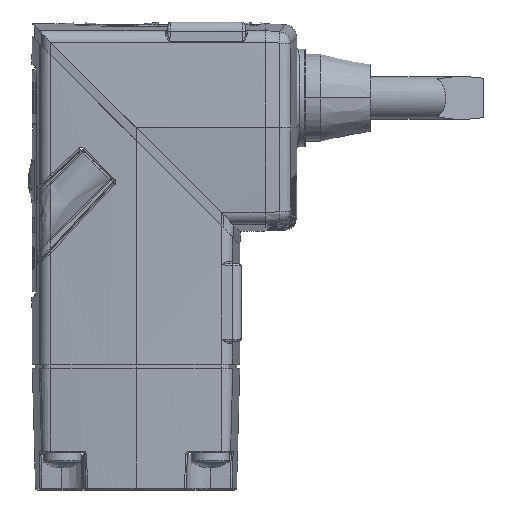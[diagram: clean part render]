
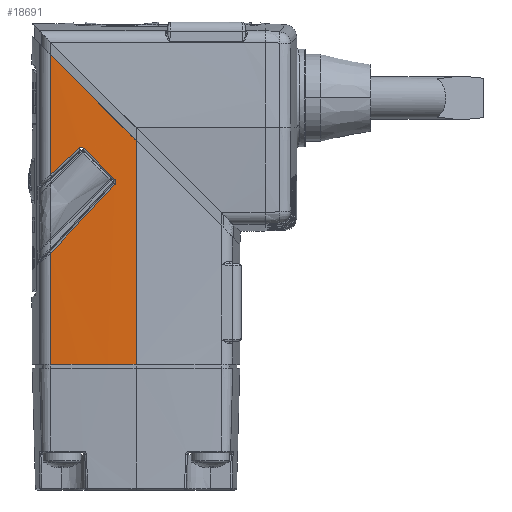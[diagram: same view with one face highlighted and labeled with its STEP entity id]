
A CAD part, left-side view. The second image highlights one B-rep face of the part: STEP entity #18691.
In plain terms, the highlighted cylindrical face has radius 195.5 mm (diameter 391 mm), a partial arc.
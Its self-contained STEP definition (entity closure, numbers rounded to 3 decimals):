
#143 = CARTESIAN_POINT ( 'NONE',  ( -20.932, 5.474, 22.691 ) ) ;
#341 = AXIS2_PLACEMENT_3D ( 'NONE', #3939, #8947, #29010 ) ;
#735 = VECTOR ( 'NONE', #30590, 1000. ) ;
#889 = CARTESIAN_POINT ( 'NONE',  ( -21.112, 2.18, 19.4 ) ) ;
#1514 = ORIENTED_EDGE ( 'NONE', *, *, #51876, .T. ) ;
#2275 =( BOUNDED_CURVE ( )  B_SPLINE_CURVE ( 3, ( #18882, #13611, #33940, #4045 ),
 .UNSPECIFIED., .F., .F. ) 
 B_SPLINE_CURVE_WITH_KNOTS ( ( 4, 4 ),
 ( 1.606, 1.652 ),
 .UNSPECIFIED. ) 
 CURVE ( )  GEOMETRIC_REPRESENTATION_ITEM ( )  RATIONAL_B_SPLINE_CURVE ( ( 1., 1., 1., 1. ) ) 
 REPRESENTATION_ITEM ( '' )  );
#3939 = CARTESIAN_POINT ( 'NONE',  ( 174.181, -6.823, 40. ) ) ;
#4045 = CARTESIAN_POINT ( 'NONE',  ( -20.679, 8.989, 32.583 ) ) ;
#7305 = LINE ( 'NONE', #59902, #19046 ) ;
#7547 = VERTEX_POINT ( 'NONE', #46237 ) ;
#8947 = DIRECTION ( 'NONE',  ( 0., 0., -1. ) ) ;
#10772 = CARTESIAN_POINT ( 'NONE',  ( -21.108, 2.253, 19.473 ) ) ;
#11211 = EDGE_CURVE ( 'NONE', #50753, #50844, #53818, .T. ) ;
#11760 = CARTESIAN_POINT ( 'NONE',  ( -20.679, 8.989, 32.583 ) ) ;
#12271 = CARTESIAN_POINT ( 'NONE',  ( -20.679, 8.989, 11.694 ) ) ;
#13182 = CARTESIAN_POINT ( 'NONE',  ( -20.679, 8.989, 0. ) ) ;
#13611 = CARTESIAN_POINT ( 'NONE',  ( -21.095, 3., 26.594 ) ) ;
#16227 = CARTESIAN_POINT ( 'NONE',  ( -20.679, 8.989, 19.941 ) ) ;
#17328 = ORIENTED_EDGE ( 'NONE', *, *, #58448, .T. ) ;
#17591 = ORIENTED_EDGE ( 'NONE', *, *, #34177, .T. ) ;
#18691 = ADVANCED_FACE ( 'NONE', ( #24954 ), #18722, .T. ) ;
#18722 = CYLINDRICAL_SURFACE ( 'NONE', #341, 195.5 ) ;
#18882 = CARTESIAN_POINT ( 'NONE',  ( -21.2, 0., 23.593 ) ) ;
#19046 = VECTOR ( 'NONE', #25427, 1000. ) ;
#19430 = ORIENTED_EDGE ( 'NONE', *, *, #11211, .F. ) ;
#19525 = CARTESIAN_POINT ( 'NONE',  ( -20.896, 6.03, 22.701 ) ) ;
#20598 = B_SPLINE_CURVE_WITH_KNOTS ( 'NONE', 3,
 ( #35818, #889, #50896, #20961, #55904, #25950 ),
 .UNSPECIFIED., .F., .F.,
 ( 4, 2, 4 ),
 ( 0., 0., 0.001 ),
 .UNSPECIFIED. ) ;
#20705 = DIRECTION ( 'NONE',  ( 0., 0., -1. ) ) ;
#20961 = CARTESIAN_POINT ( 'NONE',  ( -21.114, 2.134, 19.095 ) ) ;
#21031 = CARTESIAN_POINT ( 'NONE',  ( -21., 4.401, 21.619 ) ) ;
#22084 = VECTOR ( 'NONE', #31195, 1000. ) ;
#24110 = CARTESIAN_POINT ( 'NONE',  ( -20.825, 7.071, 21.73 ) ) ;
#24954 = FACE_OUTER_BOUND ( 'NONE', #54566, .T. ) ;
#25003 = CARTESIAN_POINT ( 'NONE',  ( -20.896, 6.03, 22.701 ) ) ;
#25427 = DIRECTION ( 'NONE',  ( 0., 0., -1. ) ) ;
#25950 = CARTESIAN_POINT ( 'NONE',  ( -21.109, 2.243, 18.917 ) ) ;
#26159 = CARTESIAN_POINT ( 'NONE',  ( -21.2, 0., 40. ) ) ;
#27043 = VERTEX_POINT ( 'NONE', #16227 ) ;
#27320 = CARTESIAN_POINT ( 'NONE',  ( -21.004, 4.492, 16.508 ) ) ;
#27415 = ORIENTED_EDGE ( 'NONE', *, *, #63352, .F. ) ;
#27733 = VERTEX_POINT ( 'NONE', #39432 ) ;
#27756 = VERTEX_POINT ( 'NONE', #34627 ) ;
#28714 = EDGE_CURVE ( 'NONE', #44031, #7547, #44790, .T. ) ;
#28893 = CARTESIAN_POINT ( 'NONE',  ( -20.873, 6.377, 22.377 ) ) ;
#29010 = DIRECTION ( 'NONE',  ( 1., 0., 0. ) ) ;
#29113 = CARTESIAN_POINT ( 'NONE',  ( -20.73, 8.35, 20.537 ) ) ;
#30013 = CARTESIAN_POINT ( 'NONE',  ( -20.927, 5.548, 22.764 ) ) ;
#30590 = DIRECTION ( 'NONE',  ( 0., 0., -1. ) ) ;
#31195 = DIRECTION ( 'NONE',  ( 0., 0., -1. ) ) ;
#31882 = VERTEX_POINT ( 'NONE', #11760 ) ;
#32069 = AXIS2_PLACEMENT_3D ( 'NONE', #50612, #20705, #55634 ) ;
#32383 = ORIENTED_EDGE ( 'NONE', *, *, #28714, .F. ) ;
#33514 = ORIENTED_EDGE ( 'NONE', *, *, #61976, .T. ) ;
#33840 =( BOUNDED_CURVE ( )  B_SPLINE_CURVE ( 3, ( #10772, #45863, #21031, #55972 ),
 .UNSPECIFIED., .F., .F. ) 
 B_SPLINE_CURVE_WITH_KNOTS ( ( 4, 4 ),
 ( 1.617, 1.634 ),
 .UNSPECIFIED. ) 
 CURVE ( )  GEOMETRIC_REPRESENTATION_ITEM ( )  RATIONAL_B_SPLINE_CURVE ( ( 1., 1., 1., 1. ) ) 
 REPRESENTATION_ITEM ( '' )  );
#33940 = CARTESIAN_POINT ( 'NONE',  ( -20.921, 5.997, 29.591 ) ) ;
#34177 = EDGE_CURVE ( 'NONE', #31882, #27043, #7305, .T. ) ;
#34627 = CARTESIAN_POINT ( 'NONE',  ( -21.2, 0., 23.593 ) ) ;
#34848 = CARTESIAN_POINT ( 'NONE',  ( -20.901, 5.955, 22.771 ) ) ;
#35818 = CARTESIAN_POINT ( 'NONE',  ( -21.108, 2.253, 19.473 ) ) ;
#36957 = EDGE_CURVE ( 'NONE', #49808, #53276, #55078, .T. ) ;
#38994 = LINE ( 'NONE', #60466, #735 ) ;
#39432 = CARTESIAN_POINT ( 'NONE',  ( -21.108, 2.253, 19.473 ) ) ;
#39845 = CARTESIAN_POINT ( 'NONE',  ( -20.908, 5.852, 22.81 ) ) ;
#42148 = CARTESIAN_POINT ( 'NONE',  ( -20.861, 6.741, 14.1 ) ) ;
#43911 = CARTESIAN_POINT ( 'NONE',  ( -20.932, 5.474, 22.691 ) ) ;
#44031 = VERTEX_POINT ( 'NONE', #58468 ) ;
#44790 = B_SPLINE_CURVE_WITH_KNOTS ( 'NONE', 3,
 ( #12271, #42148, #27320, #62217 ),
 .UNSPECIFIED., .F., .F.,
 ( 4, 4 ),
 ( 0., 0.01 ),
 .UNSPECIFIED. ) ;
#45012 = ORIENTED_EDGE ( 'NONE', *, *, #60664, .F. ) ;
#45863 = CARTESIAN_POINT ( 'NONE',  ( -21.058, 3.327, 20.546 ) ) ;
#46237 = CARTESIAN_POINT ( 'NONE',  ( -21.109, 2.243, 18.917 ) ) ;
#49808 = VERTEX_POINT ( 'NONE', #19525 ) ;
#50612 = CARTESIAN_POINT ( 'NONE',  ( 174.181, -6.823, 0. ) ) ;
#50625 = ORIENTED_EDGE ( 'NONE', *, *, #36957, .T. ) ;
#50753 = VERTEX_POINT ( 'NONE', #54976 ) ;
#50844 = VERTEX_POINT ( 'NONE', #13182 ) ;
#50896 = CARTESIAN_POINT ( 'NONE',  ( -21.114, 2.137, 19.299 ) ) ;
#51876 = EDGE_CURVE ( 'NONE', #44031, #50844, #38994, .T. ) ;
#53276 = VERTEX_POINT ( 'NONE', #43911 ) ;
#53818 = CIRCLE ( 'NONE', #32069, 195.5 ) ;
#54044 = CARTESIAN_POINT ( 'NONE',  ( -20.849, 6.724, 22.054 ) ) ;
#54566 = EDGE_LOOP ( 'NONE', ( #50625, #45012, #33514, #32383, #1514, #19430, #27415, #17328, #17591, #56701 ) ) ;
#54976 = CARTESIAN_POINT ( 'NONE',  ( -21.2, 0., 0. ) ) ;
#55078 = B_SPLINE_CURVE_WITH_KNOTS ( 'NONE', 3,
 ( #25003, #34848, #39845, #59886, #30013, #143 ),
 .UNSPECIFIED., .F., .F.,
 ( 4, 2, 4 ),
 ( 0., 0., 0.001 ),
 .UNSPECIFIED. ) ;
#55491 = B_SPLINE_CURVE_WITH_KNOTS ( 'NONE', 3,
 ( #63762, #28893, #54044, #24110, #58989, #29113, #63970 ),
 .UNSPECIFIED., .F., .F.,
 ( 4, 3, 4 ),
 ( 0., 0.001, 0.004 ),
 .UNSPECIFIED. ) ;
#55634 = DIRECTION ( 'NONE',  ( -1., 0., 0. ) ) ;
#55904 = CARTESIAN_POINT ( 'NONE',  ( -21.112, 2.172, 18.993 ) ) ;
#55972 = CARTESIAN_POINT ( 'NONE',  ( -20.932, 5.474, 22.691 ) ) ;
#56701 = ORIENTED_EDGE ( 'NONE', *, *, #58453, .F. ) ;
#58448 = EDGE_CURVE ( 'NONE', #27756, #31882, #2275, .T. ) ;
#58453 = EDGE_CURVE ( 'NONE', #49808, #27043, #55491, .T. ) ;
#58468 = CARTESIAN_POINT ( 'NONE',  ( -20.679, 8.989, 11.694 ) ) ;
#58989 = CARTESIAN_POINT ( 'NONE',  ( -20.779, 7.711, 21.134 ) ) ;
#59886 = CARTESIAN_POINT ( 'NONE',  ( -20.921, 5.648, 22.806 ) ) ;
#59902 = CARTESIAN_POINT ( 'NONE',  ( -20.679, 8.989, 40. ) ) ;
#60280 = LINE ( 'NONE', #26159, #22084 ) ;
#60466 = CARTESIAN_POINT ( 'NONE',  ( -20.679, 8.989, 40. ) ) ;
#60664 = EDGE_CURVE ( 'NONE', #27733, #53276, #33840, .T. ) ;
#61976 = EDGE_CURVE ( 'NONE', #27733, #7547, #20598, .T. ) ;
#62217 = CARTESIAN_POINT ( 'NONE',  ( -21.109, 2.243, 18.917 ) ) ;
#63352 = EDGE_CURVE ( 'NONE', #27756, #50753, #60280, .T. ) ;
#63762 = CARTESIAN_POINT ( 'NONE',  ( -20.896, 6.03, 22.701 ) ) ;
#63970 = CARTESIAN_POINT ( 'NONE',  ( -20.679, 8.989, 19.941 ) ) ;
